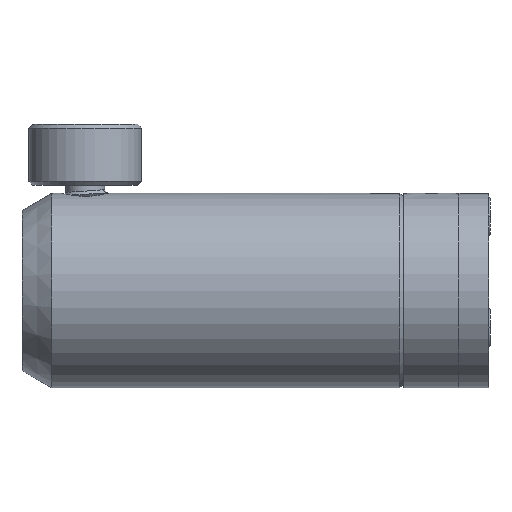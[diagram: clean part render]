
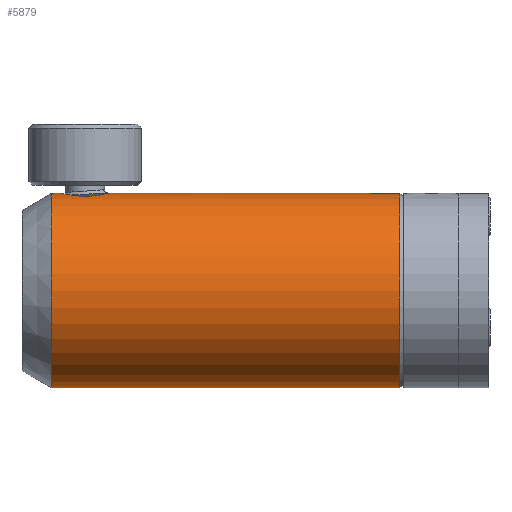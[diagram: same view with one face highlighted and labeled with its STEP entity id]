
A CAD part, left-side view. The second image highlights one B-rep face of the part: STEP entity #5879.
In plain terms, the highlighted cylindrical face has radius 12.497 mm (diameter 24.994 mm), a partial arc.
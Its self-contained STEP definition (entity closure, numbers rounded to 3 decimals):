
#3859=DIRECTION('',(0.,1.,0.));
#3860=VECTOR('',#3859,37.402);
#3861=CARTESIAN_POINT('',(-28.909,-22.492,
23.27));
#3862=LINE('',#3861,#3860);
#3863=CARTESIAN_POINT('',(-28.909,14.91,23.27));
#3895=DIRECTION('',(0.,-1.,0.));
#3896=VECTOR('',#3895,44.72);
#3897=CARTESIAN_POINT('',(-28.909,22.228,
-1.723));
#3898=LINE('',#3897,#3896);
#3907=CARTESIAN_POINT('',(-28.909,-22.492,
10.773));
#3908=DIRECTION('',(0.,1.,0.));
#3909=DIRECTION('',(0.,0.,-1.));
#3910=AXIS2_PLACEMENT_3D('',#3907,#3908,#3909);
#3912=DIRECTION('',(0.,-1.,0.));
#3913=VECTOR('',#3912,1.318);
#3914=CARTESIAN_POINT('',(-28.909,22.228,23.27));
#3915=LINE('',#3914,#3913);
#3916=CARTESIAN_POINT('',(-28.909,20.91,23.27));
#3917=CARTESIAN_POINT('',(-29.104,20.91,23.27));
#3918=CARTESIAN_POINT('',(-29.489,20.872,23.261));
#3919=CARTESIAN_POINT('',(-30.059,20.701,23.221));
#3920=CARTESIAN_POINT('',(-30.583,20.422,23.161));
#3921=CARTESIAN_POINT('',(-31.046,20.042,23.089));
#3922=CARTESIAN_POINT('',(-31.422,19.583,23.016));
#3923=CARTESIAN_POINT('',(-31.702,19.056,22.955));
#3924=CARTESIAN_POINT('',(-31.871,18.489,22.914));
#3925=CARTESIAN_POINT('',(-31.909,18.105,22.905));
#3926=CARTESIAN_POINT('',(-31.909,17.91,22.905));
#3928=CARTESIAN_POINT('',(-31.909,17.91,22.905));
#3929=CARTESIAN_POINT('',(-31.909,17.714,22.905));
#3930=CARTESIAN_POINT('',(-31.871,17.33,22.914));
#3931=CARTESIAN_POINT('',(-31.702,16.762,22.955));
#3932=CARTESIAN_POINT('',(-31.422,16.236,23.016));
#3933=CARTESIAN_POINT('',(-31.046,15.777,23.089));
#3934=CARTESIAN_POINT('',(-30.583,15.397,23.161));
#3935=CARTESIAN_POINT('',(-30.06,15.118,23.221));
#3936=CARTESIAN_POINT('',(-29.489,14.947,23.261));
#3937=CARTESIAN_POINT('',(-29.104,14.91,23.27));
#3938=CARTESIAN_POINT('',(-28.909,14.91,23.27));
#3944=CARTESIAN_POINT('',(-28.909,22.228,10.773));
#3945=DIRECTION('',(0.,1.,0.));
#3946=DIRECTION('',(0.,0.,-1.));
#3947=AXIS2_PLACEMENT_3D('',#3944,#3945,#3946);
#5681=CARTESIAN_POINT('',(-28.909,22.228,23.27));
#5682=VERTEX_POINT('',#5681);
#5683=CARTESIAN_POINT('',(-28.909,22.228,
-1.723));
#5684=VERTEX_POINT('',#5683);
#5697=VERTEX_POINT('',#3863);
#5699=VERTEX_POINT('',#3916);
#5700=VERTEX_POINT('',#3926);
#5794=CARTESIAN_POINT('',(-28.909,-22.492,
23.27));
#5795=CARTESIAN_POINT('',(-28.909,-22.492,
-1.723));
#5796=VERTEX_POINT('',#5794);
#5797=VERTEX_POINT('',#5795);
#5862=CARTESIAN_POINT('',(-28.909,26.038,10.773));
#5863=DIRECTION('',(0.,-1.,0.));
#5864=DIRECTION('',(0.,0.,-1.));
#5865=AXIS2_PLACEMENT_3D('',#5862,#5863,#5864);
#5866=CYLINDRICAL_SURFACE('',#5865,12.497);
#5867=ORIENTED_EDGE('',*,*,#5853,.F.);
#5868=ORIENTED_EDGE('',*,*,#5828,.F.);
#5870=ORIENTED_EDGE('',*,*,#5869,.T.);
#5871=ORIENTED_EDGE('',*,*,#5824,.T.);
#5873=ORIENTED_EDGE('',*,*,#5872,.T.);
#5875=ORIENTED_EDGE('',*,*,#5874,.T.);
#5876=ORIENTED_EDGE('',*,*,#5818,.F.);
#5877=EDGE_LOOP('',(#5867,#5868,#5870,#5871,#5873,#5875,#5876));
#5878=FACE_OUTER_BOUND('',#5877,.F.);
#5879=ADVANCED_FACE('',(#5878),#5866,.T.);
#3911=CIRCLE('',#3910,12.497);
#3927=B_SPLINE_CURVE_WITH_KNOTS('',3,(#3916,#3917,#3918,#3919,#3920,#3921,#3922,
#3923,#3924,#3925,#3926),.UNSPECIFIED.,.F.,.F.,(4,1,1,1,1,1,1,1,4),(0.,
0.125,0.25,0.375,0.5,0.625,0.75,0.875,1.),.UNSPECIFIED.);
#3939=B_SPLINE_CURVE_WITH_KNOTS('',3,(#3928,#3929,#3930,#3931,#3932,#3933,#3934,
#3935,#3936,#3937,#3938),.UNSPECIFIED.,.F.,.F.,(4,1,1,1,1,1,1,1,4),(0.,
0.125,0.25,0.375,0.5,0.625,0.75,0.875,1.),.UNSPECIFIED.);
#3948=CIRCLE('',#3947,12.497);
#5818=EDGE_CURVE('',#5796,#5697,#3862,.T.);
#5824=EDGE_CURVE('',#5682,#5699,#3915,.T.);
#5828=EDGE_CURVE('',#5684,#5797,#3898,.T.);
#5853=EDGE_CURVE('',#5797,#5796,#3911,.T.);
#5869=EDGE_CURVE('',#5684,#5682,#3948,.T.);
#5872=EDGE_CURVE('',#5699,#5700,#3927,.T.);
#5874=EDGE_CURVE('',#5700,#5697,#3939,.T.);
